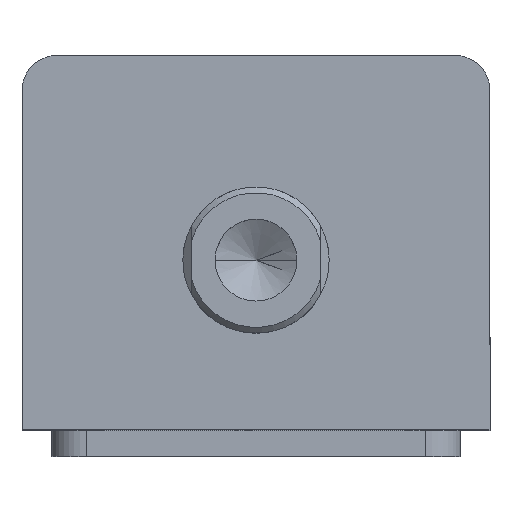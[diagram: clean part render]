
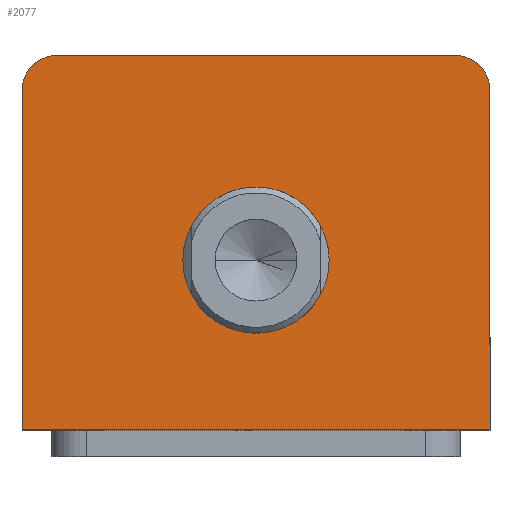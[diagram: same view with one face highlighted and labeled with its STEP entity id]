
A CAD part, top view. The second image highlights one B-rep face of the part: STEP entity #2077.
In plain terms, the highlighted planar face has unit normal (0, 0, 1).
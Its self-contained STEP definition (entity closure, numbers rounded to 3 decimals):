
#382 = DIRECTION ( 'NONE',  ( 0., 1., 0. ) ) ;
#387 = CARTESIAN_POINT ( 'NONE',  ( 40., 32., 105. ) ) ;
#422 = DIRECTION ( 'NONE',  ( 1., 0., 0. ) ) ;
#423 = DIRECTION ( 'NONE',  ( 0., 0., 1. ) ) ;
#424 = CARTESIAN_POINT ( 'NONE',  ( -34., 26., 105. ) ) ;
#455 = DIRECTION ( 'NONE',  ( 1., 0., 0. ) ) ;
#456 = DIRECTION ( 'NONE',  ( 0., 0., 1. ) ) ;
#458 = CARTESIAN_POINT ( 'NONE',  ( 34., 26., 105. ) ) ;
#498 = DIRECTION ( 'NONE',  ( -1., 0., 0. ) ) ;
#499 = CARTESIAN_POINT ( 'NONE',  ( -40., 32., 105. ) ) ;
#507 = DIRECTION ( 'NONE',  ( 1., 0., 0. ) ) ;
#575 = FACE_BOUND ( 'NONE', #2288, .T. ) ;
#580 = FACE_OUTER_BOUND ( 'NONE', #2285, .T. ) ;
#911 = EDGE_CURVE ( 'NONE', #2594, #2600, #1549, .T. ) ;
#945 = AXIS2_PLACEMENT_3D ( 'NONE', #1340, #1339, #1338 ) ;
#1055 = EDGE_CURVE ( 'NONE', #2600, #2594, #1691, .T. ) ;
#1083 = EDGE_CURVE ( 'NONE', #2611, #2614, #1729, .T. ) ;
#1098 = EDGE_CURVE ( 'NONE', #2614, #2574, #1763, .T. ) ;
#1115 = EDGE_CURVE ( 'NONE', #2596, #2585, #1792, .T. ) ;
#1128 = EDGE_CURVE ( 'NONE', #2574, #2596, #1808, .T. ) ;
#1137 = EDGE_CURVE ( 'NONE', #2585, #2616, #1821, .T. ) ;
#1187 = EDGE_CURVE ( 'NONE', #2616, #2611, #1895, .T. ) ;
#1338 = DIRECTION ( 'NONE',  ( 1., 0., 0. ) ) ;
#1339 = DIRECTION ( 'NONE',  ( 0., 0., 1. ) ) ;
#1340 = CARTESIAN_POINT ( 'NONE',  ( 0., -3., 105. ) ) ;
#1428 = ORIENTED_EDGE ( 'NONE', *, *, #1083, .T. ) ;
#1429 = ORIENTED_EDGE ( 'NONE', *, *, #1187, .T. ) ;
#1430 = ORIENTED_EDGE ( 'NONE', *, *, #1137, .T. ) ;
#1431 = ORIENTED_EDGE ( 'NONE', *, *, #1115, .T. ) ;
#1432 = ORIENTED_EDGE ( 'NONE', *, *, #1055, .F. ) ;
#1433 = ORIENTED_EDGE ( 'NONE', *, *, #911, .F. ) ;
#1549 = CIRCLE ( 'NONE', #945, 12.5 ) ;
#1691 = CIRCLE ( 'NONE', #2011, 12.5 ) ;
#1729 = LINE ( 'NONE', #3347, #1736 ) ;
#1736 = VECTOR ( 'NONE', #507, 1000. ) ;
#1763 = LINE ( 'NONE', #387, #1766 ) ;
#1766 = VECTOR ( 'NONE', #382, 1000. ) ;
#1792 = LINE ( 'NONE', #499, #1795 ) ;
#1795 = VECTOR ( 'NONE', #498, 1000. ) ;
#1808 = CIRCLE ( 'NONE', #1963, 6. ) ;
#1821 = CIRCLE ( 'NONE', #1950, 6. ) ;
#1895 = LINE ( 'NONE', #3097, #1898 ) ;
#1898 = VECTOR ( 'NONE', #3113, 1000. ) ;
#1950 = AXIS2_PLACEMENT_3D ( 'NONE', #424, #423, #422 ) ;
#1963 = AXIS2_PLACEMENT_3D ( 'NONE', #458, #456, #455 ) ;
#2011 = AXIS2_PLACEMENT_3D ( 'NONE', #3430, #3429, #3428 ) ;
#2077 = ADVANCED_FACE ( 'NONE', ( #575, #580 ), #3117, .T. ) ;
#2285 = EDGE_LOOP ( 'NONE', ( #1431, #1430, #1429, #1428, #2413, #2412 ) ) ;
#2288 = EDGE_LOOP ( 'NONE', ( #1433, #1432 ) ) ;
#2412 = ORIENTED_EDGE ( 'NONE', *, *, #1128, .T. ) ;
#2413 = ORIENTED_EDGE ( 'NONE', *, *, #1098, .T. ) ;
#2574 = VERTEX_POINT ( 'NONE', #2819 ) ;
#2585 = VERTEX_POINT ( 'NONE', #2804 ) ;
#2594 = VERTEX_POINT ( 'NONE', #2791 ) ;
#2596 = VERTEX_POINT ( 'NONE', #2789 ) ;
#2600 = VERTEX_POINT ( 'NONE', #2782 ) ;
#2611 = VERTEX_POINT ( 'NONE', #2885 ) ;
#2614 = VERTEX_POINT ( 'NONE', #2893 ) ;
#2616 = VERTEX_POINT ( 'NONE', #2912 ) ;
#2782 = CARTESIAN_POINT ( 'NONE',  ( -12.5, -3., 105. ) ) ;
#2789 = CARTESIAN_POINT ( 'NONE',  ( 34., 32., 105. ) ) ;
#2791 = CARTESIAN_POINT ( 'NONE',  ( 12.5, -3., 105. ) ) ;
#2804 = CARTESIAN_POINT ( 'NONE',  ( -34., 32., 105. ) ) ;
#2819 = CARTESIAN_POINT ( 'NONE',  ( 40., 26., 105. ) ) ;
#2885 = CARTESIAN_POINT ( 'NONE',  ( -40., -32., 105. ) ) ;
#2893 = CARTESIAN_POINT ( 'NONE',  ( 40., -32., 105. ) ) ;
#2912 = CARTESIAN_POINT ( 'NONE',  ( -40., 26., 105. ) ) ;
#3097 = CARTESIAN_POINT ( 'NONE',  ( -40., 32., 105. ) ) ;
#3110 = DIRECTION ( 'NONE',  ( 1., 0., 0. ) ) ;
#3111 = DIRECTION ( 'NONE',  ( 0., 0., 1. ) ) ;
#3113 = DIRECTION ( 'NONE',  ( 0., -1., 0. ) ) ;
#3117 = PLANE ( 'NONE',  #3579 ) ;
#3125 = CARTESIAN_POINT ( 'NONE',  ( 0., 0., 105. ) ) ;
#3347 = CARTESIAN_POINT ( 'NONE',  ( -40., -32., 105. ) ) ;
#3428 = DIRECTION ( 'NONE',  ( 1., 0., 0. ) ) ;
#3429 = DIRECTION ( 'NONE',  ( 0., 0., 1. ) ) ;
#3430 = CARTESIAN_POINT ( 'NONE',  ( 0., -3., 105. ) ) ;
#3579 = AXIS2_PLACEMENT_3D ( 'NONE', #3125, #3111, #3110 ) ;
